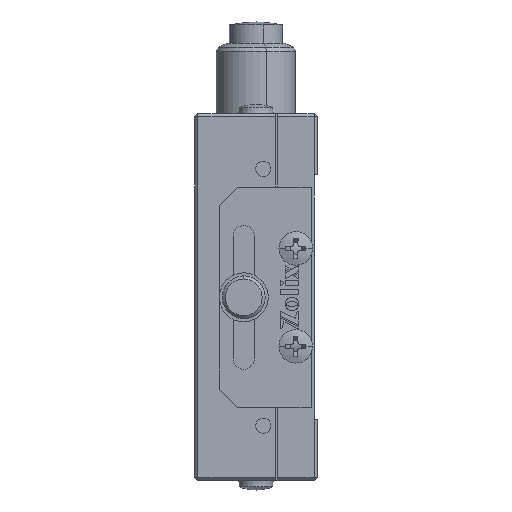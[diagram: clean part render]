
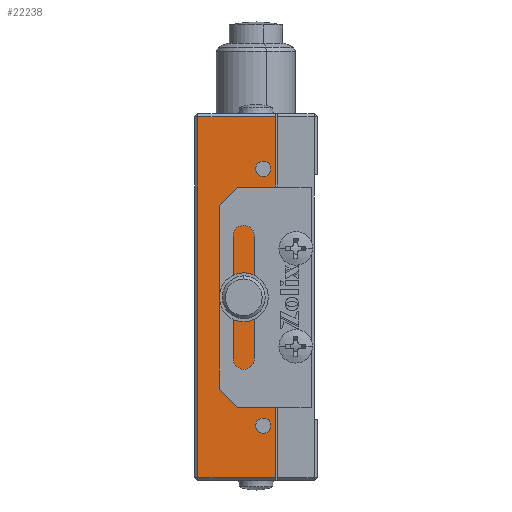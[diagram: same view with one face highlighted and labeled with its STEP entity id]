
A CAD part, left-side view. The second image highlights one B-rep face of the part: STEP entity #22238.
In plain terms, the highlighted planar face has unit normal (-1, 0, 0).
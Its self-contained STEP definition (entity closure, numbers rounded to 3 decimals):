
#402 = DIRECTION ( 'NONE',  ( 0., 0., 1. ) ) ;
#551 = CARTESIAN_POINT ( 'NONE',  ( -25.322, 0.044, 61.55 ) ) ;
#785 = CARTESIAN_POINT ( 'NONE',  ( -25.322, 0.044, 50.3 ) ) ;
#863 = DIRECTION ( 'NONE',  ( -1., 0., 0. ) ) ;
#942 = DIRECTION ( 'NONE',  ( -1., 0., 0. ) ) ;
#1073 = AXIS2_PLACEMENT_3D ( 'NONE', #24160, #9186, #1623 ) ;
#1297 = EDGE_CURVE ( 'NONE', #2895, #7611, #21404, .T. ) ;
#1327 = ORIENTED_EDGE ( 'NONE', *, *, #11339, .F. ) ;
#1623 = DIRECTION ( 'NONE',  ( 0., 0., 1. ) ) ;
#2007 = CIRCLE ( 'NONE', #20960, 1.25 ) ;
#2425 = DIRECTION ( 'NONE',  ( 0., 0., 1. ) ) ;
#2600 = ORIENTED_EDGE ( 'NONE', *, *, #9843, .F. ) ;
#2622 = VERTEX_POINT ( 'NONE', #16145 ) ;
#2626 = CARTESIAN_POINT ( 'NONE',  ( -25.322, 0.044, 59.05 ) ) ;
#2895 = VERTEX_POINT ( 'NONE', #19911 ) ;
#2938 = VERTEX_POINT ( 'NONE', #3168 ) ;
#3168 = CARTESIAN_POINT ( 'NONE',  ( -25.322, -1.956, 100.8 ) ) ;
#3254 = DIRECTION ( 'NONE',  ( 0., 0., -1. ) ) ;
#3260 = EDGE_CURVE ( 'NONE', #6374, #8750, #11385, .T. ) ;
#3286 = ORIENTED_EDGE ( 'NONE', *, *, #20050, .F. ) ;
#3546 = DIRECTION ( 'NONE',  ( -1., 0., 0. ) ) ;
#3631 = CARTESIAN_POINT ( 'NONE',  ( -25.322, 3.244, 70.05 ) ) ;
#3636 = ORIENTED_EDGE ( 'NONE', *, *, #12174, .F. ) ;
#3721 = CARTESIAN_POINT ( 'NONE',  ( -25.322, 0.044, 93.55 ) ) ;
#3889 = CARTESIAN_POINT ( 'NONE',  ( -25.322, -1.956, 41.3 ) ) ;
#3981 = VERTEX_POINT ( 'NONE', #16028 ) ;
#4049 = CIRCLE ( 'NONE', #18476, 1.25 ) ;
#4622 = DIRECTION ( 'NONE',  ( 0., 0., 1. ) ) ;
#5086 = EDGE_LOOP ( 'NONE', ( #12784, #21737, #16832, #22682 ) ) ;
#5425 = CARTESIAN_POINT ( 'NONE',  ( -25.322, 3.244, 71.3 ) ) ;
#5526 = VERTEX_POINT ( 'NONE', #10870 ) ;
#5717 = ORIENTED_EDGE ( 'NONE', *, *, #3260, .F. ) ;
#5825 = VERTEX_POINT ( 'NONE', #21627 ) ;
#6353 = PLANE ( 'NONE',  #23018 ) ;
#6374 = VERTEX_POINT ( 'NONE', #2626 ) ;
#6557 = ORIENTED_EDGE ( 'NONE', *, *, #16148, .F. ) ;
#6651 = ORIENTED_EDGE ( 'NONE', *, *, #19930, .F. ) ;
#7205 = VERTEX_POINT ( 'NONE', #18954 ) ;
#7362 = VERTEX_POINT ( 'NONE', #21796 ) ;
#7551 = AXIS2_PLACEMENT_3D ( 'NONE', #11563, #17115, #402 ) ;
#7611 = VERTEX_POINT ( 'NONE', #3721 ) ;
#7915 = DIRECTION ( 'NONE',  ( 0., -1., 0. ) ) ;
#8311 = CIRCLE ( 'NONE', #20078, 1.25 ) ;
#8570 = LINE ( 'NONE', #21884, #13218 ) ;
#8610 = DIRECTION ( 'NONE',  ( -1., 0., 0. ) ) ;
#8625 = CIRCLE ( 'NONE', #16679, 1.25 ) ;
#8750 = VERTEX_POINT ( 'NONE', #551 ) ;
#8974 = CARTESIAN_POINT ( 'NONE',  ( -25.322, 0.044, 83.55 ) ) ;
#9186 = DIRECTION ( 'NONE',  ( -1., 0., 0. ) ) ;
#9384 = EDGE_LOOP ( 'NONE', ( #3286, #5717 ) ) ;
#9801 = CIRCLE ( 'NONE', #10936, 1.25 ) ;
#9843 = EDGE_CURVE ( 'NONE', #3981, #14088, #19496, .T. ) ;
#10011 = DIRECTION ( 'NONE',  ( 0., 0., 1. ) ) ;
#10127 = CARTESIAN_POINT ( 'NONE',  ( -25.322, 0.044, 60.3 ) ) ;
#10138 = VERTEX_POINT ( 'NONE', #3631 ) ;
#10316 = EDGE_CURVE ( 'NONE', #15641, #2622, #23770, .T. ) ;
#10331 = CARTESIAN_POINT ( 'NONE',  ( -25.322, -1.956, 41.3 ) ) ;
#10870 = CARTESIAN_POINT ( 'NONE',  ( -25.322, 0.044, 49.05 ) ) ;
#10936 = AXIS2_PLACEMENT_3D ( 'NONE', #5425, #3546, #18446 ) ;
#11252 = VECTOR ( 'NONE', #7915, 1000. ) ;
#11339 = EDGE_CURVE ( 'NONE', #5526, #5825, #8311, .T. ) ;
#11385 = CIRCLE ( 'NONE', #12908, 1.25 ) ;
#11398 = EDGE_CURVE ( 'NONE', #14088, #3981, #8625, .T. ) ;
#11493 = EDGE_LOOP ( 'NONE', ( #6651, #1327 ) ) ;
#11563 = CARTESIAN_POINT ( 'NONE',  ( -25.322, 0.044, 92.3 ) ) ;
#11646 = VECTOR ( 'NONE', #22249, 1000. ) ;
#11989 = DIRECTION ( 'NONE',  ( 0., 0., 1. ) ) ;
#12019 = CARTESIAN_POINT ( 'NONE',  ( -25.322, 0.044, 82.3 ) ) ;
#12050 = CIRCLE ( 'NONE', #1073, 1.25 ) ;
#12174 = EDGE_CURVE ( 'NONE', #10138, #7362, #12050, .T. ) ;
#12622 = ORIENTED_EDGE ( 'NONE', *, *, #19608, .F. ) ;
#12629 = FACE_BOUND ( 'NONE', #9384, .T. ) ;
#12784 = ORIENTED_EDGE ( 'NONE', *, *, #13749, .T. ) ;
#12908 = AXIS2_PLACEMENT_3D ( 'NONE', #10127, #23129, #11989 ) ;
#13218 = VECTOR ( 'NONE', #3254, 1000. ) ;
#13749 = EDGE_CURVE ( 'NONE', #2622, #2938, #14023, .T. ) ;
#13871 = DIRECTION ( 'NONE',  ( -1., 0., 0. ) ) ;
#13956 = AXIS2_PLACEMENT_3D ( 'NONE', #21626, #942, #23495 ) ;
#14023 = LINE ( 'NONE', #3889, #16648 ) ;
#14088 = VERTEX_POINT ( 'NONE', #8974 ) ;
#14156 = DIRECTION ( 'NONE',  ( 0., 0., 1. ) ) ;
#14568 = EDGE_LOOP ( 'NONE', ( #20512, #2600 ) ) ;
#14742 = CARTESIAN_POINT ( 'NONE',  ( -25.322, 10.744, 41.8 ) ) ;
#15111 = EDGE_LOOP ( 'NONE', ( #6557, #3636 ) ) ;
#15123 = EDGE_LOOP ( 'NONE', ( #12622, #18804 ) ) ;
#15336 = CARTESIAN_POINT ( 'NONE',  ( -25.322, 0.044, 50.3 ) ) ;
#15641 = VERTEX_POINT ( 'NONE', #14742 ) ;
#15669 = DIRECTION ( 'NONE',  ( 0., 0., 1. ) ) ;
#15955 = CARTESIAN_POINT ( 'NONE',  ( -25.322, 0.044, 82.3 ) ) ;
#16028 = CARTESIAN_POINT ( 'NONE',  ( -25.322, 0.044, 81.05 ) ) ;
#16145 = CARTESIAN_POINT ( 'NONE',  ( -25.322, -1.956, 41.8 ) ) ;
#16148 = EDGE_CURVE ( 'NONE', #7362, #10138, #9801, .T. ) ;
#16648 = VECTOR ( 'NONE', #18703, 1000. ) ;
#16679 = AXIS2_PLACEMENT_3D ( 'NONE', #15955, #8610, #14156 ) ;
#16832 = ORIENTED_EDGE ( 'NONE', *, *, #22427, .T. ) ;
#17115 = DIRECTION ( 'NONE',  ( -1., 0., 0. ) ) ;
#17142 = CARTESIAN_POINT ( 'NONE',  ( -25.322, -1.956, 100.8 ) ) ;
#17311 = FACE_BOUND ( 'NONE', #15123, .T. ) ;
#17369 = DIRECTION ( 'NONE',  ( 0., 0., 1. ) ) ;
#17507 = DIRECTION ( 'NONE',  ( -1., 0., 0. ) ) ;
#17588 = FACE_OUTER_BOUND ( 'NONE', #5086, .T. ) ;
#18176 = FACE_BOUND ( 'NONE', #11493, .T. ) ;
#18198 = AXIS2_PLACEMENT_3D ( 'NONE', #12019, #863, #4622 ) ;
#18446 = DIRECTION ( 'NONE',  ( 0., 0., 1. ) ) ;
#18476 = AXIS2_PLACEMENT_3D ( 'NONE', #15336, #21089, #17369 ) ;
#18635 = CIRCLE ( 'NONE', #13956, 1.25 ) ;
#18703 = DIRECTION ( 'NONE',  ( 0., 0., 1. ) ) ;
#18804 = ORIENTED_EDGE ( 'NONE', *, *, #1297, .F. ) ;
#18836 = EDGE_CURVE ( 'NONE', #2938, #7205, #22714, .T. ) ;
#18954 = CARTESIAN_POINT ( 'NONE',  ( -25.322, 10.744, 100.8 ) ) ;
#19331 = FACE_BOUND ( 'NONE', #15111, .T. ) ;
#19496 = CIRCLE ( 'NONE', #18198, 1.25 ) ;
#19502 = DIRECTION ( 'NONE',  ( -1., 0., 0. ) ) ;
#19608 = EDGE_CURVE ( 'NONE', #7611, #2895, #18635, .T. ) ;
#19911 = CARTESIAN_POINT ( 'NONE',  ( -25.322, 0.044, 91.05 ) ) ;
#19930 = EDGE_CURVE ( 'NONE', #5825, #5526, #4049, .T. ) ;
#20050 = EDGE_CURVE ( 'NONE', #8750, #6374, #2007, .T. ) ;
#20078 = AXIS2_PLACEMENT_3D ( 'NONE', #785, #19502, #2425 ) ;
#20512 = ORIENTED_EDGE ( 'NONE', *, *, #11398, .F. ) ;
#20960 = AXIS2_PLACEMENT_3D ( 'NONE', #23211, #13871, #15669 ) ;
#21023 = CARTESIAN_POINT ( 'NONE',  ( -25.322, -1.956, 41.8 ) ) ;
#21089 = DIRECTION ( 'NONE',  ( -1., 0., 0. ) ) ;
#21404 = CIRCLE ( 'NONE', #7551, 1.25 ) ;
#21626 = CARTESIAN_POINT ( 'NONE',  ( -25.322, 0.044, 92.3 ) ) ;
#21627 = CARTESIAN_POINT ( 'NONE',  ( -25.322, 0.044, 51.55 ) ) ;
#21737 = ORIENTED_EDGE ( 'NONE', *, *, #18836, .T. ) ;
#21796 = CARTESIAN_POINT ( 'NONE',  ( -25.322, 3.244, 72.55 ) ) ;
#21884 = CARTESIAN_POINT ( 'NONE',  ( -25.322, 10.744, 41.3 ) ) ;
#22238 = ADVANCED_FACE ( 'NONE', ( #17588, #19331, #12629, #18176, #17311, #22828 ), #6353, .T. ) ;
#22249 = DIRECTION ( 'NONE',  ( 0., 1., 0. ) ) ;
#22427 = EDGE_CURVE ( 'NONE', #7205, #15641, #8570, .T. ) ;
#22682 = ORIENTED_EDGE ( 'NONE', *, *, #10316, .T. ) ;
#22714 = LINE ( 'NONE', #17142, #11646 ) ;
#22828 = FACE_BOUND ( 'NONE', #14568, .T. ) ;
#23018 = AXIS2_PLACEMENT_3D ( 'NONE', #10331, #17507, #10011 ) ;
#23129 = DIRECTION ( 'NONE',  ( -1., 0., 0. ) ) ;
#23211 = CARTESIAN_POINT ( 'NONE',  ( -25.322, 0.044, 60.3 ) ) ;
#23495 = DIRECTION ( 'NONE',  ( 0., 0., 1. ) ) ;
#23770 = LINE ( 'NONE', #21023, #11252 ) ;
#24160 = CARTESIAN_POINT ( 'NONE',  ( -25.322, 3.244, 71.3 ) ) ;
